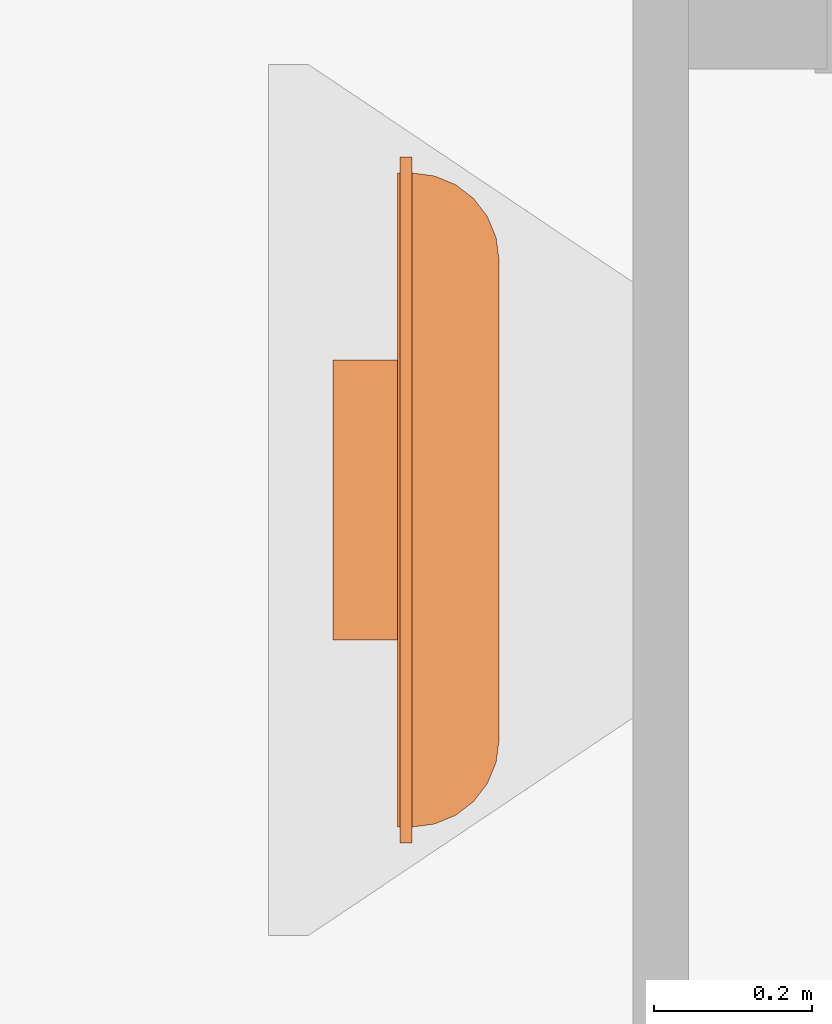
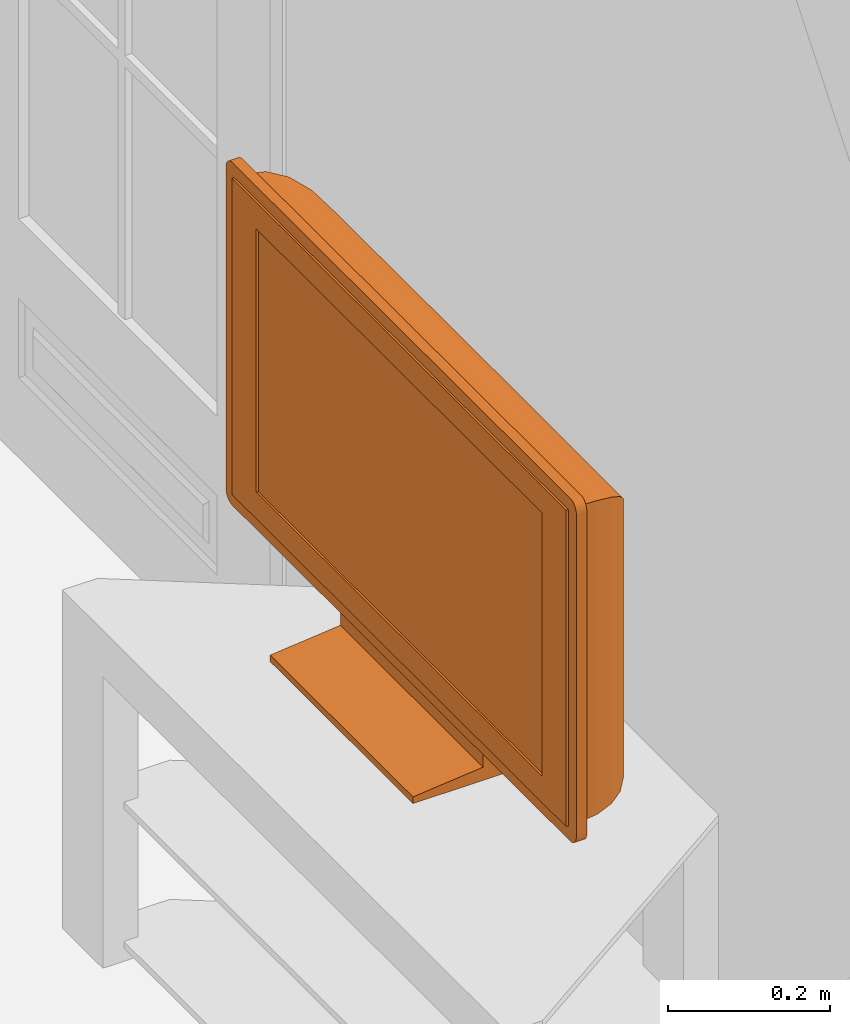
# One storey, part 15 of 15: 1 proxy.
"""IFC2X3 building model written with IfcOpenShell, lengths in metres."""

from ifc_helpers import new_model, entity, si_unit, converted_unit, derived_unit, direction, frame, origin, place, context, subcontext, project, spatial, faceted_brep, source, transform, mapped, material, material_list, type_object, type_shapes, element, save


model = new_model("IFC2X3")

# Units and contexts
model_context = context("Model", 3, precision=1e-05, world=origin(), true_north=direction((6.12303176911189e-17, 1.0)))
body_context = subcontext(model_context, "Body", "Model", "MODEL_VIEW")
ifc_project = project(units=[si_unit("LENGTHUNIT", "METRE"), si_unit("AREAUNIT", "SQUARE_METRE"), si_unit("VOLUMEUNIT", "CUBIC_METRE"), converted_unit("PLANEANGLEUNIT", "DEGREE", entity("IfcRatioMeasure", 0.0174532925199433), si_unit("PLANEANGLEUNIT", "RADIAN"), dimensions=[0, 0, 0, 0, 0, 0, 0]), si_unit("MASSUNIT", "GRAM", prefix="KILO"), derived_unit("MASSDENSITYUNIT", [(si_unit("MASSUNIT", "GRAM", prefix="KILO"), 1), (si_unit("LENGTHUNIT", "METRE"), -3)]), derived_unit("MOMENTOFINERTIAUNIT", [(si_unit("LENGTHUNIT", "METRE"), 4)]), si_unit("TIMEUNIT", "SECOND"), si_unit("FREQUENCYUNIT", "HERTZ"), si_unit("THERMODYNAMICTEMPERATUREUNIT", "DEGREE_CELSIUS"), derived_unit("THERMALTRANSMITTANCEUNIT", [(si_unit("MASSUNIT", "GRAM", prefix="KILO"), 1), (si_unit("THERMODYNAMICTEMPERATUREUNIT", "KELVIN"), -1), (si_unit("TIMEUNIT", "SECOND"), -3)]), derived_unit("VOLUMETRICFLOWRATEUNIT", [(si_unit("LENGTHUNIT", "METRE"), 3), (si_unit("TIMEUNIT", "SECOND"), -1)]), si_unit("ELECTRICCURRENTUNIT", "AMPERE"), si_unit("ELECTRICVOLTAGEUNIT", "VOLT"), si_unit("POWERUNIT", "WATT"), si_unit("FORCEUNIT", "NEWTON", prefix="KILO"), si_unit("ILLUMINANCEUNIT", "LUX"), si_unit("LUMINOUSFLUXUNIT", "LUMEN"), si_unit("LUMINOUSINTENSITYUNIT", "CANDELA"), derived_unit("USERDEFINED", [(si_unit("MASSUNIT", "GRAM", prefix="KILO"), -1), (si_unit("LENGTHUNIT", "METRE"), -2), (si_unit("TIMEUNIT", "SECOND"), 3), (si_unit("LUMINOUSFLUXUNIT", "LUMEN"), 1)]), derived_unit("LINEARVELOCITYUNIT", [(si_unit("LENGTHUNIT", "METRE"), 1), (si_unit("TIMEUNIT", "SECOND"), -1)]), si_unit("PRESSUREUNIT", "PASCAL"), derived_unit("USERDEFINED", [(si_unit("LENGTHUNIT", "METRE"), -2), (si_unit("MASSUNIT", "GRAM", prefix="KILO"), 1), (si_unit("TIMEUNIT", "SECOND"), -2)]), derived_unit("LINEARFORCEUNIT", [(si_unit("MASSUNIT", "GRAM", prefix="KILO"), 1), (si_unit("LENGTHUNIT", "METRE"), 1), (si_unit("TIMEUNIT", "SECOND"), -2), (si_unit("LENGTHUNIT", "METRE"), -1)]), derived_unit("PLANARFORCEUNIT", [(si_unit("MASSUNIT", "GRAM", prefix="KILO"), 1), (si_unit("LENGTHUNIT", "METRE"), 1), (si_unit("TIMEUNIT", "SECOND"), -2), (si_unit("LENGTHUNIT", "METRE"), -2)])], contexts=[model_context])

# Site, building, storey, space
site_placement = place(None, origin())
site = spatial("IfcSite", under=ifc_project, at=site_placement, Name="Surface", CompositionType="ELEMENT")
building_placement = place(site_placement, origin())
building = spatial("IfcBuilding", under=site, at=building_placement, CompositionType="ELEMENT")
storey_placement = place(building_placement, frame((0.0, 0.0, 2.65)))
storey = spatial("IfcBuildingStorey", under=building, at=storey_placement, Name="Niveau étage", CompositionType="ELEMENT", Elevation=2.65)
space_placement = place(storey_placement, origin())
space = spatial("IfcSpace", under=storey, at=space_placement, Name="5", CompositionType="ELEMENT", InteriorOrExteriorSpace="INTERNAL")

# Proxy
ifc_material_1 = material(Name="TV - Cadre")
ifc_material_2 = material(Name="TV - Noir")
ifc_material_3 = material(Name="TV - Verre")
ifc_material_list = material_list([ifc_material_1, ifc_material_2, ifc_material_3])
building_element_proxy_type = type_object("IfcBuildingElementProxyType", Name="TV - Ecran plat:810 mm", PredefinedType="NOTDEFINED", material=ifc_material_1)
shared_shape = source(origin(), body_context, "Body", "Brep", [
    faceted_brep([(-0.180434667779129, -0.0514613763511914, 0.0), (-0.180434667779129, -0.151461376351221, 0.0), (-0.180434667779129, -0.151461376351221, 0.0100000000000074), (-0.180434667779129, -0.0514613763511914, 0.020000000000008), (0.172545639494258, -0.0514613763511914, 0.0), (0.172545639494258, -0.0514613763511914, 0.0200000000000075), (0.172545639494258, -0.151461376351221, 0.0100000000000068), (0.172545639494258, -0.151461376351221, 0.0)], [[[0, 1, 2, 3]], [[4, 5, 6, 7]], [[1, 0, 4, 7]], [[2, 1, 7, 6]], [[3, 2, 6, 5]], [[0, 3, 5, 4]]]),
    faceted_brep([(-0.180434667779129, -0.0514613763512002, 0.0800000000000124), (-0.180434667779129, -0.00146137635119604, 0.0800000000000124), (-0.180434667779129, 0.0485386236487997, 0.0), (-0.180434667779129, -0.0514613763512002, 0.0), (0.172545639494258, -0.0514613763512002, 0.0800000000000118), (0.172545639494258, -0.0514613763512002, 0.0), (0.172545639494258, 0.0485386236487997, 0.0), (0.172545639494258, -0.00146137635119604, 0.0800000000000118)], [[[0, 1, 2, 3]], [[4, 5, 6, 7]], [[1, 0, 4, 7]], [[2, 1, 7, 6]], [[3, 2, 6, 5]], [[0, 3, 5, 4]]]),
    faceted_brep([(0.409035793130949, -0.0694613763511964, 0.557139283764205), (-0.416924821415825, -0.0694613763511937, 0.557139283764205), (-0.416924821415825, -0.0694613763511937, 0.0799999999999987), (0.409035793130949, -0.0694613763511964, 0.0799999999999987), (-0.356924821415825, -0.0694613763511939, 0.517139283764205), (0.349035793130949, -0.0694613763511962, 0.517139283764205), (0.349035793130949, -0.0694613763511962, 0.119999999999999), (-0.356924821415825, -0.0694613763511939, 0.119999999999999), (0.409035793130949, -0.0514613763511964, 0.557139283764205), (0.409035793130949, -0.0514613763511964, 0.0799999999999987), (-0.416924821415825, -0.0514613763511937, 0.0799999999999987), (-0.416924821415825, -0.0514613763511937, 0.557139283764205), (-0.356924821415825, -0.0664613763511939, 0.517139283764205), (-0.356924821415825, -0.0664613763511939, 0.119999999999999), (0.349035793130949, -0.0664613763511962, 0.119999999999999), (0.349035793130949, -0.0664613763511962, 0.517139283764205)], [[[0, 1, 2, 3], [4, 5, 6, 7]], [[8, 9, 10, 11]], [[1, 0, 8, 11]], [[2, 1, 11, 10]], [[3, 2, 10, 9]], [[0, 3, 9, 8]], [[12, 13, 14, 15]], [[12, 15, 5, 4]], [[15, 14, 6, 5]], [[14, 13, 7, 6]], [[13, 12, 4, 7]]]),
    faceted_brep([(0.428524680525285, -0.0664613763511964, 0.566021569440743), (0.427026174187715, -0.0664613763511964, 0.569639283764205), (0.409035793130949, -0.0664613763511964, 0.557139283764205), (0.429035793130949, -0.0664613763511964, 0.562139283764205), (0.424642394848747, -0.0664613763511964, 0.572745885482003), (0.421535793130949, -0.0664613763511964, 0.575129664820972), (0.417918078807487, -0.0664613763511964, 0.576628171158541), (0.414035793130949, -0.0664613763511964, 0.577139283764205), (-0.416924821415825, -0.0664613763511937, 0.557139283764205), (-0.421924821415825, -0.0664613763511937, 0.577139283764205), (-0.425807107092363, -0.0664613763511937, 0.576628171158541), (-0.429424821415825, -0.0664613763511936, 0.575129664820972), (-0.432531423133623, -0.0664613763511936, 0.572745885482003), (-0.434915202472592, -0.0664613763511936, 0.569639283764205), (-0.436413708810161, -0.0664613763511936, 0.566021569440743), (-0.436924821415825, -0.0664613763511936, 0.562139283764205), (-0.416924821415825, -0.0664613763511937, 0.0799999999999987), (-0.436924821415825, -0.0664613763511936, 0.0749999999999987), (-0.436413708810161, -0.0664613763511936, 0.0711177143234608), (-0.434915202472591, -0.0664613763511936, 0.0674999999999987), (-0.432531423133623, -0.0664613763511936, 0.0643933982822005), (-0.429424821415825, -0.0664613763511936, 0.0620096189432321), (-0.425807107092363, -0.0664613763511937, 0.0605111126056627), (-0.421924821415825, -0.0664613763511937, 0.0599999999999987), (0.414035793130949, -0.0664613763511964, 0.0599999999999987), (0.409035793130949, -0.0664613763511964, 0.0799999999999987), (0.417918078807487, -0.0664613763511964, 0.0605111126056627), (0.421535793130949, -0.0664613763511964, 0.0620096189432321), (0.424642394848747, -0.0664613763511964, 0.0643933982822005), (0.427026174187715, -0.0664613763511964, 0.0674999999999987), (0.428524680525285, -0.0664613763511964, 0.0711177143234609), (0.429035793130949, -0.0664613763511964, 0.0749999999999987), (-0.436413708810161, -0.0514613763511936, 0.566021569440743), (-0.434915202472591, -0.0514613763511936, 0.569639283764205), (-0.416924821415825, -0.0514613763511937, 0.557139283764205), (-0.436924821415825, -0.0514613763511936, 0.562139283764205), (-0.432531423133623, -0.0514613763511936, 0.572745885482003), (-0.429424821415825, -0.0514613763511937, 0.575129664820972), (-0.425807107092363, -0.0514613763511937, 0.576628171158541), (-0.421924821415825, -0.0514613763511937, 0.577139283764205), (0.409035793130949, -0.0514613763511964, 0.557139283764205), (0.414035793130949, -0.0514613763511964, 0.577139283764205), (0.417918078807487, -0.0514613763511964, 0.576628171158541), (0.421535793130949, -0.0514613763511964, 0.575129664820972), (0.424642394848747, -0.0514613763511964, 0.572745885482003), (0.427026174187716, -0.0514613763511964, 0.569639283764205), (0.428524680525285, -0.0514613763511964, 0.566021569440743), (0.429035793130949, -0.0514613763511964, 0.562139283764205), (0.409035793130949, -0.0514613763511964, 0.0799999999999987), (0.429035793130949, -0.0514613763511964, 0.0749999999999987), (0.428524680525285, -0.0514613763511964, 0.0711177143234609), (0.427026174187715, -0.0514613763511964, 0.0674999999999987), (0.424642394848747, -0.0514613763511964, 0.0643933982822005), (0.421535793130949, -0.0514613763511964, 0.0620096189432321), (0.417918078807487, -0.0514613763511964, 0.0605111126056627), (0.414035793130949, -0.0514613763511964, 0.0599999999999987), (-0.421924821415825, -0.0514613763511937, 0.0599999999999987), (-0.416924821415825, -0.0514613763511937, 0.0799999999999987), (-0.425807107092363, -0.0514613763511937, 0.0605111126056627), (-0.429424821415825, -0.0514613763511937, 0.0620096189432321), (-0.432531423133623, -0.0514613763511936, 0.0643933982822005), (-0.434915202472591, -0.0514613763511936, 0.0674999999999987), (-0.436413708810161, -0.0514613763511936, 0.0711177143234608), (-0.436924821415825, -0.0514613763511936, 0.0749999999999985)], [[[0, 1, 2]], [[2, 3, 0]], [[2, 1, 4]], [[5, 2, 4]], [[2, 5, 6]], [[6, 7, 2]], [[7, 8, 2]], [[9, 8, 7]], [[9, 10, 8]], [[11, 8, 10]], [[8, 11, 12]], [[8, 12, 13]], [[13, 14, 8]], [[15, 8, 14]], [[8, 15, 16]], [[16, 15, 17]], [[18, 16, 17]], [[19, 16, 18]], [[20, 16, 19]], [[21, 16, 20]], [[16, 21, 22]], [[22, 23, 16]], [[16, 23, 24]], [[25, 16, 24]], [[24, 26, 25]], [[27, 25, 26]], [[25, 27, 28]], [[25, 28, 29]], [[25, 29, 30]], [[30, 31, 25]], [[31, 3, 25]], [[3, 2, 25]], [[32, 33, 34]], [[34, 35, 32]], [[34, 33, 36]], [[37, 34, 36]], [[34, 37, 38]], [[38, 39, 34]], [[39, 40, 34]], [[41, 40, 39]], [[41, 42, 40]], [[43, 40, 42]], [[40, 43, 44]], [[40, 44, 45]], [[45, 46, 40]], [[47, 40, 46]], [[40, 47, 48]], [[48, 47, 49]], [[50, 48, 49]], [[51, 48, 50]], [[52, 48, 51]], [[53, 48, 52]], [[48, 53, 54]], [[54, 55, 48]], [[48, 55, 56]], [[57, 48, 56]], [[56, 58, 57]], [[59, 57, 58]], [[57, 59, 60]], [[57, 60, 61]], [[57, 61, 62]], [[62, 63, 57]], [[63, 35, 57]], [[35, 34, 57]], [[9, 7, 41, 39]], [[10, 9, 39, 38]], [[11, 10, 38, 37]], [[12, 11, 37, 36]], [[13, 12, 36, 33]], [[14, 13, 33, 32]], [[15, 14, 32, 35]], [[17, 15, 35, 63]], [[18, 17, 63, 62]], [[19, 18, 62, 61]], [[20, 19, 61, 60]], [[21, 20, 60, 59]], [[22, 21, 59, 58]], [[23, 22, 58, 56]], [[24, 23, 56, 55]], [[26, 24, 55, 54]], [[27, 26, 54, 53]], [[28, 27, 53, 52]], [[29, 28, 52, 51]], [[30, 29, 51, 50]], [[31, 30, 50, 49]], [[3, 31, 49, 47]], [[0, 3, 47, 46]], [[1, 0, 46, 45]], [[4, 1, 45, 44]], [[5, 4, 44, 43]], [[6, 5, 43, 42]], [[7, 6, 42, 41]], [[25, 2, 40, 48]], [[16, 25, 48, 57]], [[8, 16, 57, 34]], [[2, 8, 34, 40]]]),
    faceted_brep([(0.409035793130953, -0.051461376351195, 0.0799999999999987), (0.409035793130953, -0.051461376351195, 0.557139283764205), (0.0428227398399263, -0.0514613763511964, 0.557139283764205), (-0.416924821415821, -0.051461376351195, 0.557139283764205), (-0.41692482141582, -0.051461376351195, 0.0799999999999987), (-0.306924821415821, 0.0585386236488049, 0.0799999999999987), (-0.306924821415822, 0.0585386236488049, 0.447139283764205), (0.299035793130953, 0.0585386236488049, 0.447139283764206), (0.299035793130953, 0.0585386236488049, 0.0799999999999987), (-0.413176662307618, -0.0229912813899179, 0.0799999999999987), (-0.402187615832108, 0.00353862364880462, 0.0799999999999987), (-0.38470656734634, 0.0263203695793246, 0.0799999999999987), (-0.36192482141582, 0.0438014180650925, 0.0799999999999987), (-0.335394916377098, 0.0547904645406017, 0.0799999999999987), (0.32750588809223, 0.0547904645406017, 0.0799999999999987), (0.354035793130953, 0.0438014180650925, 0.0799999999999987), (0.376817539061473, 0.0263203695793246, 0.0799999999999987), (0.394298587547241, 0.00353862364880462, 0.0799999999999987), (0.40528763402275, -0.0229912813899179, 0.0799999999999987), (0.394298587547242, 0.00353862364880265, 0.542402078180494), (0.405287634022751, -0.0229912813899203, 0.553391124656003), (0.376817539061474, 0.0263203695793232, 0.524921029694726), (0.327505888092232, 0.0547904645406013, 0.475609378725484), (0.354035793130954, 0.0438014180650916, 0.502139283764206), (-0.00394451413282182, -0.00973735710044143, 0.54891897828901), (-0.0181417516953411, -0.0303033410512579, 0.555085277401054), (-0.00394451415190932, 0.0150125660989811, 0.534781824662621), (-0.384706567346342, 0.0263203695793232, 0.524921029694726), (-0.402187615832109, 0.00353862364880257, 0.542402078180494), (-0.413176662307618, -0.0229912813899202, 0.553391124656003), (-0.00394451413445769, 0.0353418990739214, 0.514705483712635), (-0.361924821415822, 0.0438014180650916, 0.502139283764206), (-0.335394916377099, 0.0547904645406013, 0.475609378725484)], [[[0, 1, 2, 3, 4]], [[5, 6, 7, 8]], [[9, 10, 11, 12, 13, 5, 8, 14, 15, 16, 17, 18, 0, 4]], [[19, 20, 18, 17]], [[21, 19, 17, 16]], [[1, 0, 18, 20]], [[22, 23, 15, 14]], [[7, 22, 14, 8]], [[16, 15, 23, 21]], [[20, 24, 25]], [[24, 20, 19]], [[1, 20, 25]], [[24, 19, 26]], [[26, 27, 28]], [[29, 24, 28]], [[26, 21, 30]], [[25, 24, 29]], [[25, 3, 2, 1]], [[31, 23, 22, 32]], [[26, 30, 27]], [[32, 22, 7, 6]], [[30, 31, 27]], [[19, 21, 26]], [[24, 26, 28]], [[31, 30, 23]], [[23, 30, 21]], [[3, 25, 29]], [[4, 3, 29, 9]], [[9, 29, 28, 10]], [[10, 28, 27, 11]], [[12, 31, 32, 13]], [[13, 32, 6, 5]], [[11, 27, 31, 12]]]),
])
type_shapes(building_element_proxy_type, [shared_shape])
proxy_placement = place(space_placement, frame((5.6617614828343, 2.30579032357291, 0.6), z_axis=(0.0, 0.0, 1.0), x_axis=(0.0, -1.0, 0.0)))
element("IfcBuildingElementProxy", 1, at=proxy_placement, inside=space, type_object=building_element_proxy_type, material=ifc_material_list, Name="TV - Ecran plat:810 mm", ObjectType="TV - Ecran plat:810 mm", context=body_context, shape_type="MappedRepresentation", body=[
    mapped(shared_shape, transform((0.0, 0.0, 0.0), scale=1.0)),
])

save(model, "model.ifc")
